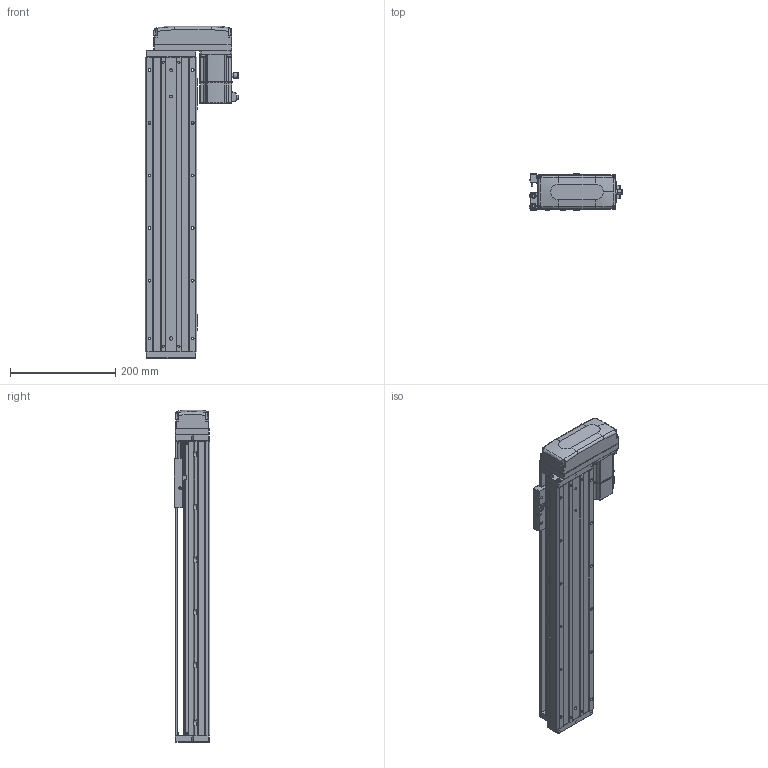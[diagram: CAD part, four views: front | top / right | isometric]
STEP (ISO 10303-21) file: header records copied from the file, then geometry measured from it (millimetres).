
FILE_DESCRIPTION (( 'STEP AP203' ), '1' );
FILE_NAME ('KTHA100-400-BL-M20-C4L.step', '2022-04-26T01:48:37', ( '微软用户' ), ( '微软中国' ), 'SwSTEP 2.0', 'SolidWorks 2020', '' );
FILE_SCHEMA (( 'CONFIG_CONTROL_DESIGN' ));
Length unit declared in the file: millimetre
Products named in the file (17): KTHA100-005; GBT70.1 M5℅16; GB¨uT 70.2-M3¡Á5_M3¡Á6; CTHA60-016; EE_SX911P_R; GBT 70.3-M3℅6; CTHA60-017; _X2_4E0983F1_X0_200W_1; KTHA100-001_560; CTHA60-021; CTHA86-015-1_CTHA86-015-2; KTHA100-002; GBT77-2000 M3×3; CTHA86-033; KTHA100-004; GBT 70.1-M3℅6; KTHA100-400-BL-M20-C4L
Assembly tree (57 placements, depth 2):
  KTHA100-400-BL-M20-C4L
    KTHA100-001_560
    KTHA100-002
    KTHA100-004
    KTHA100-005
    GB¨uT 70.2-M3¡Á5_M3¡Á6  x6
    EE_SX911P_R  x3
    CTHA60-017  x3
    CTHA60-021  x2
    GBT77-2000 M3×3  x6
    GBT 70.1-M3℅6  x10
    GBT70.1 M5℅16  x14
    CTHA60-016  x2
    GBT 70.3-M3℅6  x4
    _X2_4E0983F1_X0_200W_1
    CTHA86-015-1_CTHA86-015-2
    CTHA86-033
Bounding box: 177.7 x 68 x 631 mm (x, y, z)
Volume: 2981720.1 mm3; surface area: 491497.2 mm2
Topology: 60 solids, 60 shells, 2397 faces, 5721 edges, 3544 vertices
Faces by surface type: plane 1220, cylinder 665, cone 305, torus 116, bspline 75, sphere 16
Entity records: 40656 total; most frequent: CARTESIAN_POINT 8224, DIRECTION 6272, ORIENTED_EDGE 6054, EDGE_CURVE 3027, AXIS2_PLACEMENT_3D 2200, VERTEX_POINT 1904, LINE 1872, VECTOR 1872
